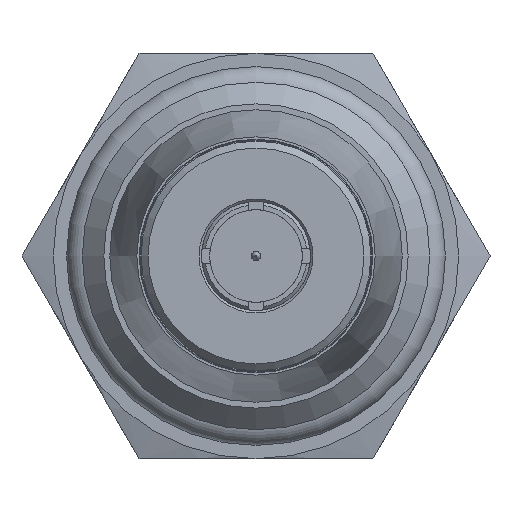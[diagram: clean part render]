
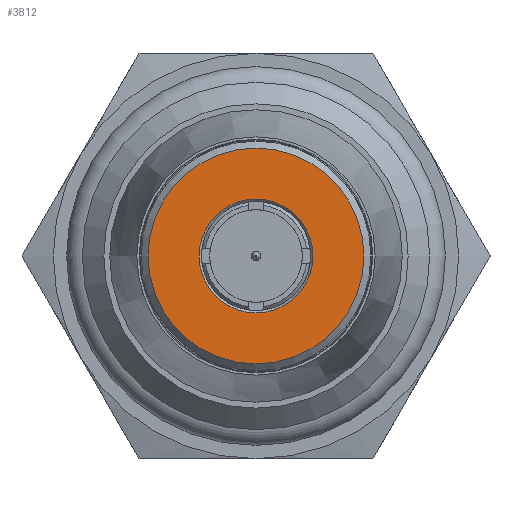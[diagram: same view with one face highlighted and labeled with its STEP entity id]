
A CAD part, front view. The second image highlights one B-rep face of the part: STEP entity #3812.
In plain terms, the highlighted planar face has unit normal (0, -1, 0).
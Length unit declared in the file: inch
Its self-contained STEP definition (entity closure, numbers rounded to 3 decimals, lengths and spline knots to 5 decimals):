
#163=FACE_BOUND('',#965,.T.);
#215=PLANE('',#4138);
#748=FACE_OUTER_BOUND('',#964,.T.);
#964=EDGE_LOOP('',(#2700));
#965=EDGE_LOOP('',(#2701));
#1229=CIRCLE('',#4134,0.12295);
#1232=CIRCLE('',#4139,0.233);
#1552=VERTEX_POINT('',#6056);
#1555=VERTEX_POINT('',#6066);
#1987=EDGE_CURVE('',#1552,#1552,#1229,.T.);
#1992=EDGE_CURVE('',#1555,#1555,#1232,.T.);
#2700=ORIENTED_EDGE('',*,*,#1992,.F.);
#2701=ORIENTED_EDGE('',*,*,#1987,.F.);
#3812=ADVANCED_FACE('',(#748,#163),#215,.F.);
#4134=AXIS2_PLACEMENT_3D('',#6057,#4839,#4840);
#4138=AXIS2_PLACEMENT_3D('',#6065,#4849,#4850);
#4139=AXIS2_PLACEMENT_3D('',#6067,#4851,#4852);
#4839=DIRECTION('center_axis',(0.,-1.,0.));
#4840=DIRECTION('ref_axis',(0.,0.,1.));
#4849=DIRECTION('center_axis',(0.,1.,0.));
#4850=DIRECTION('ref_axis',(0.,0.,1.));
#4851=DIRECTION('center_axis',(0.,1.,0.));
#4852=DIRECTION('ref_axis',(-1.,0.,0.));
#6056=CARTESIAN_POINT('',(0.,-1.39975,-0.12295));
#6057=CARTESIAN_POINT('Origin',(0.,-1.39975,0.));
#6065=CARTESIAN_POINT('Origin',(0.,-1.39975,0.));
#6066=CARTESIAN_POINT('',(0.233,-1.39975,0.));
#6067=CARTESIAN_POINT('Origin',(0.,-1.39975,0.));
